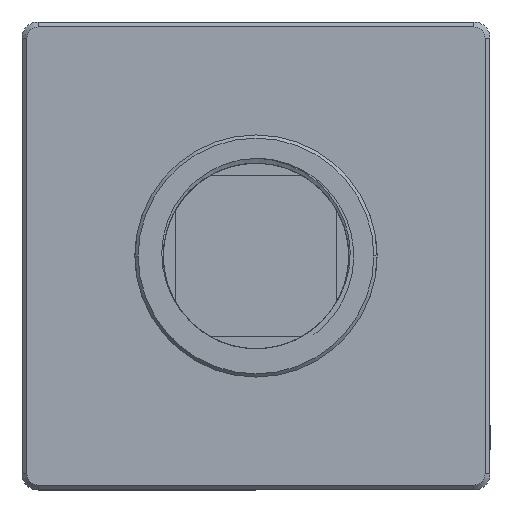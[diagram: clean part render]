
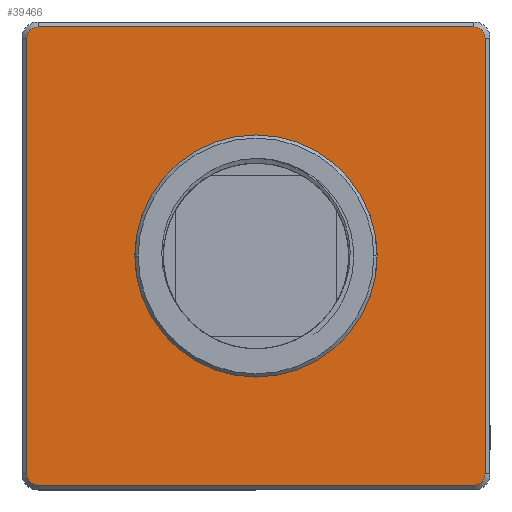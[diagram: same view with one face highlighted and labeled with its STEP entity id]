
A CAD part, front view. The second image highlights one B-rep face of the part: STEP entity #39466.
In plain terms, the highlighted planar face has unit normal (0, -1, 0).
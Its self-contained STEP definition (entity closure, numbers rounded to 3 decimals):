
#780 = DIRECTION ( 'NONE',  ( 1., 0., 0. ) ) ;
#1529 = CARTESIAN_POINT ( 'NONE',  ( -13.5, -10., -14.2 ) ) ;
#1636 = DIRECTION ( 'NONE',  ( 0., 1., 0. ) ) ;
#1656 = AXIS2_PLACEMENT_3D ( 'NONE', #30914, #42912, #7112 ) ;
#2183 = CARTESIAN_POINT ( 'NONE',  ( 14.5, -10., -14.2 ) ) ;
#2303 = CARTESIAN_POINT ( 'NONE',  ( -14.2, -10., 13.5 ) ) ;
#2437 = EDGE_CURVE ( 'NONE', #25473, #25778, #37555, .T. ) ;
#3725 = VERTEX_POINT ( 'NONE', #2303 ) ;
#5350 = AXIS2_PLACEMENT_3D ( 'NONE', #18577, #21272, #5603 ) ;
#5554 = VERTEX_POINT ( 'NONE', #20583 ) ;
#5603 = DIRECTION ( 'NONE',  ( 1., 0., 0. ) ) ;
#5950 = CARTESIAN_POINT ( 'NONE',  ( 7.5, -10., 0. ) ) ;
#6312 = ORIENTED_EDGE ( 'NONE', *, *, #34689, .T. ) ;
#6662 = AXIS2_PLACEMENT_3D ( 'NONE', #37524, #49287, #10052 ) ;
#7112 = DIRECTION ( 'NONE',  ( 1., 0., 0. ) ) ;
#7471 = DIRECTION ( 'NONE',  ( 0., -1., 0. ) ) ;
#9203 = DIRECTION ( 'NONE',  ( 1., 0., 0. ) ) ;
#9291 = CARTESIAN_POINT ( 'NONE',  ( -14.2, -10., -13.5 ) ) ;
#9440 = ORIENTED_EDGE ( 'NONE', *, *, #47994, .T. ) ;
#9492 = VERTEX_POINT ( 'NONE', #17984 ) ;
#9962 = VECTOR ( 'NONE', #19304, 1000. ) ;
#10052 = DIRECTION ( 'NONE',  ( 1., 0., 0. ) ) ;
#10484 = ORIENTED_EDGE ( 'NONE', *, *, #51657, .T. ) ;
#10564 = CIRCLE ( 'NONE', #51509, 7.5 ) ;
#11056 = VECTOR ( 'NONE', #14194, 1000. ) ;
#13137 = CARTESIAN_POINT ( 'NONE',  ( 13.5, -10., 14.2 ) ) ;
#13141 = CARTESIAN_POINT ( 'NONE',  ( 14.5, -10., 14.5 ) ) ;
#14123 = DIRECTION ( 'NONE',  ( 0., -1., 0. ) ) ;
#14194 = DIRECTION ( 'NONE',  ( 1., 0., 0. ) ) ;
#14382 = DIRECTION ( 'NONE',  ( 1., 0., 0. ) ) ;
#14821 = EDGE_LOOP ( 'NONE', ( #38985, #51316 ) ) ;
#15115 = CARTESIAN_POINT ( 'NONE',  ( 14.5, -10., 14.2 ) ) ;
#15650 = FACE_BOUND ( 'NONE', #14821, .T. ) ;
#15651 = AXIS2_PLACEMENT_3D ( 'NONE', #36575, #44678, #780 ) ;
#16706 = EDGE_LOOP ( 'NONE', ( #49767, #6312, #41769, #10484, #25895, #9440, #23587, #32044 ) ) ;
#17064 = VECTOR ( 'NONE', #43018, 1000. ) ;
#17984 = CARTESIAN_POINT ( 'NONE',  ( 13.5, -10., -14.2 ) ) ;
#18577 = CARTESIAN_POINT ( 'NONE',  ( -13.5, -10., -13.5 ) ) ;
#19304 = DIRECTION ( 'NONE',  ( 0., 0., -1. ) ) ;
#19839 = VERTEX_POINT ( 'NONE', #25048 ) ;
#20318 = EDGE_CURVE ( 'NONE', #25778, #25473, #10564, .T. ) ;
#20583 = CARTESIAN_POINT ( 'NONE',  ( 14.2, -10., -13.5 ) ) ;
#21144 = VERTEX_POINT ( 'NONE', #44400 ) ;
#21272 = DIRECTION ( 'NONE',  ( 0., -1., 0. ) ) ;
#23587 = ORIENTED_EDGE ( 'NONE', *, *, #25841, .T. ) ;
#24599 = VERTEX_POINT ( 'NONE', #9291 ) ;
#25048 = CARTESIAN_POINT ( 'NONE',  ( -13.5, -10., 14.2 ) ) ;
#25236 = AXIS2_PLACEMENT_3D ( 'NONE', #37657, #14123, #14382 ) ;
#25473 = VERTEX_POINT ( 'NONE', #5950 ) ;
#25646 = VECTOR ( 'NONE', #51173, 1000. ) ;
#25778 = VERTEX_POINT ( 'NONE', #44833 ) ;
#25841 = EDGE_CURVE ( 'NONE', #21144, #48673, #48359, .T. ) ;
#25895 = ORIENTED_EDGE ( 'NONE', *, *, #42336, .T. ) ;
#30254 = CIRCLE ( 'NONE', #25236, 0.7 ) ;
#30492 = DIRECTION ( 'NONE',  ( 1., 0., 0. ) ) ;
#30914 = CARTESIAN_POINT ( 'NONE',  ( 0., -10., 0. ) ) ;
#31506 = CARTESIAN_POINT ( 'NONE',  ( 0., -10., 0. ) ) ;
#32044 = ORIENTED_EDGE ( 'NONE', *, *, #42519, .T. ) ;
#32898 = CIRCLE ( 'NONE', #5350, 0.7 ) ;
#34689 = EDGE_CURVE ( 'NONE', #3725, #24599, #46021, .T. ) ;
#35171 = CARTESIAN_POINT ( 'NONE',  ( 14.2, -10., 14.5 ) ) ;
#36575 = CARTESIAN_POINT ( 'NONE',  ( 13.5, -10., -13.5 ) ) ;
#37151 = AXIS2_PLACEMENT_3D ( 'NONE', #13141, #1636, #9203 ) ;
#37524 = CARTESIAN_POINT ( 'NONE',  ( 13.5, -10., 13.5 ) ) ;
#37555 = CIRCLE ( 'NONE', #1656, 7.5 ) ;
#37657 = CARTESIAN_POINT ( 'NONE',  ( -13.5, -10., 13.5 ) ) ;
#38985 = ORIENTED_EDGE ( 'NONE', *, *, #2437, .F. ) ;
#39351 = LINE ( 'NONE', #35171, #17064 ) ;
#39466 = ADVANCED_FACE ( 'NONE', ( #43606, #15650 ), #47548, .F. ) ;
#41769 = ORIENTED_EDGE ( 'NONE', *, *, #46928, .T. ) ;
#41906 = LINE ( 'NONE', #2183, #11056 ) ;
#42336 = EDGE_CURVE ( 'NONE', #9492, #5554, #50714, .T. ) ;
#42355 = CARTESIAN_POINT ( 'NONE',  ( -14.2, -10., 14.5 ) ) ;
#42519 = EDGE_CURVE ( 'NONE', #48673, #19839, #51701, .T. ) ;
#42912 = DIRECTION ( 'NONE',  ( 0., -1., 0. ) ) ;
#43018 = DIRECTION ( 'NONE',  ( 0., 0., 1. ) ) ;
#43606 = FACE_OUTER_BOUND ( 'NONE', #16706, .T. ) ;
#44400 = CARTESIAN_POINT ( 'NONE',  ( 14.2, -10., 13.5 ) ) ;
#44564 = VERTEX_POINT ( 'NONE', #1529 ) ;
#44678 = DIRECTION ( 'NONE',  ( 0., -1., 0. ) ) ;
#44827 = EDGE_CURVE ( 'NONE', #19839, #3725, #30254, .T. ) ;
#44833 = CARTESIAN_POINT ( 'NONE',  ( -7.5, -10., 0. ) ) ;
#46021 = LINE ( 'NONE', #42355, #9962 ) ;
#46928 = EDGE_CURVE ( 'NONE', #24599, #44564, #32898, .T. ) ;
#47548 = PLANE ( 'NONE',  #37151 ) ;
#47994 = EDGE_CURVE ( 'NONE', #5554, #21144, #39351, .T. ) ;
#48359 = CIRCLE ( 'NONE', #6662, 0.7 ) ;
#48673 = VERTEX_POINT ( 'NONE', #13137 ) ;
#49287 = DIRECTION ( 'NONE',  ( 0., -1., 0. ) ) ;
#49767 = ORIENTED_EDGE ( 'NONE', *, *, #44827, .T. ) ;
#50714 = CIRCLE ( 'NONE', #15651, 0.7 ) ;
#51173 = DIRECTION ( 'NONE',  ( -1., 0., 0. ) ) ;
#51316 = ORIENTED_EDGE ( 'NONE', *, *, #20318, .F. ) ;
#51509 = AXIS2_PLACEMENT_3D ( 'NONE', #31506, #7471, #30492 ) ;
#51657 = EDGE_CURVE ( 'NONE', #44564, #9492, #41906, .T. ) ;
#51701 = LINE ( 'NONE', #15115, #25646 ) ;
